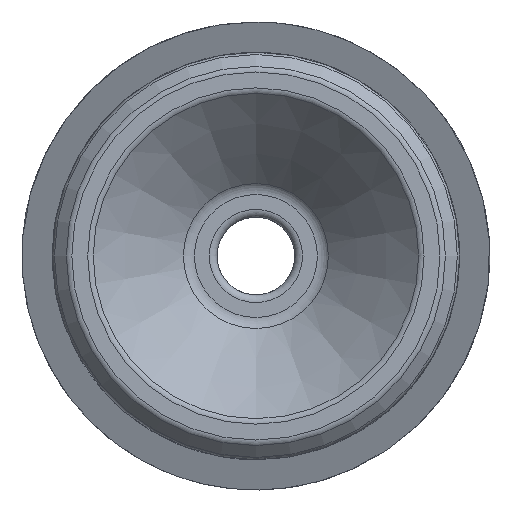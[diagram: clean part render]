
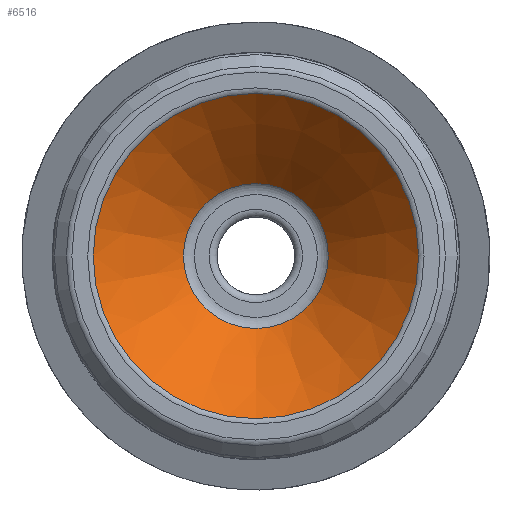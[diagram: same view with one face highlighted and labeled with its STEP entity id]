
A CAD part, front view. The second image highlights one B-rep face of the part: STEP entity #6516.
In plain terms, the highlighted conical face has half-angle 44.99 degrees and reference radius 21.251 mm.
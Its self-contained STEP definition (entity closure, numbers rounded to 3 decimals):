
#505 = CARTESIAN_POINT ( 'NONE',  ( 0., 476.419, 43.063 ) ) ;
#537 = EDGE_LOOP ( 'NONE', ( #2828 ) ) ;
#684 = CIRCLE ( 'NONE', #5759, 20.958 ) ;
#755 = VERTEX_POINT ( 'NONE', #8270 ) ;
#1466 = EDGE_LOOP ( 'NONE', ( #2911 ) ) ;
#2198 = VERTEX_POINT ( 'NONE', #3832 ) ;
#2606 = CARTESIAN_POINT ( 'NONE',  ( 0., 464.5, 43.063 ) ) ;
#2752 = AXIS2_PLACEMENT_3D ( 'NONE', #2606, #6471, #3299 ) ;
#2828 = ORIENTED_EDGE ( 'NONE', *, *, #6775, .T. ) ;
#2911 = ORIENTED_EDGE ( 'NONE', *, *, #6948, .T. ) ;
#2927 = AXIS2_PLACEMENT_3D ( 'NONE', #505, #3534, #7972 ) ;
#3214 = DIRECTION ( 'NONE',  ( 0., 0., 1. ) ) ;
#3299 = DIRECTION ( 'NONE',  ( 0., 0., -1. ) ) ;
#3402 = CONICAL_SURFACE ( 'NONE', #2752, 21.251, 0.785 ) ;
#3496 = FACE_OUTER_BOUND ( 'NONE', #537, .T. ) ;
#3534 = DIRECTION ( 'NONE',  ( 0., 1., 0. ) ) ;
#3832 = CARTESIAN_POINT ( 'NONE',  ( 0., 464.793, 64.021 ) ) ;
#4678 = CIRCLE ( 'NONE', #2927, 9.336 ) ;
#4894 = DIRECTION ( 'NONE',  ( 0., -1., 0. ) ) ;
#5759 = AXIS2_PLACEMENT_3D ( 'NONE', #7746, #4894, #3214 ) ;
#6471 = DIRECTION ( 'NONE',  ( 0., -1., 0. ) ) ;
#6516 = ADVANCED_FACE ( 'NONE', ( #3496, #9418 ), #3402, .F. ) ;
#6775 = EDGE_CURVE ( 'NONE', #2198, #2198, #684, .T. ) ;
#6948 = EDGE_CURVE ( 'NONE', #755, #755, #4678, .T. ) ;
#7746 = CARTESIAN_POINT ( 'NONE',  ( 0., 464.793, 43.063 ) ) ;
#7972 = DIRECTION ( 'NONE',  ( 0., 0., -1. ) ) ;
#8270 = CARTESIAN_POINT ( 'NONE',  ( 0., 476.419, 33.727 ) ) ;
#9418 = FACE_BOUND ( 'NONE', #1466, .T. ) ;
